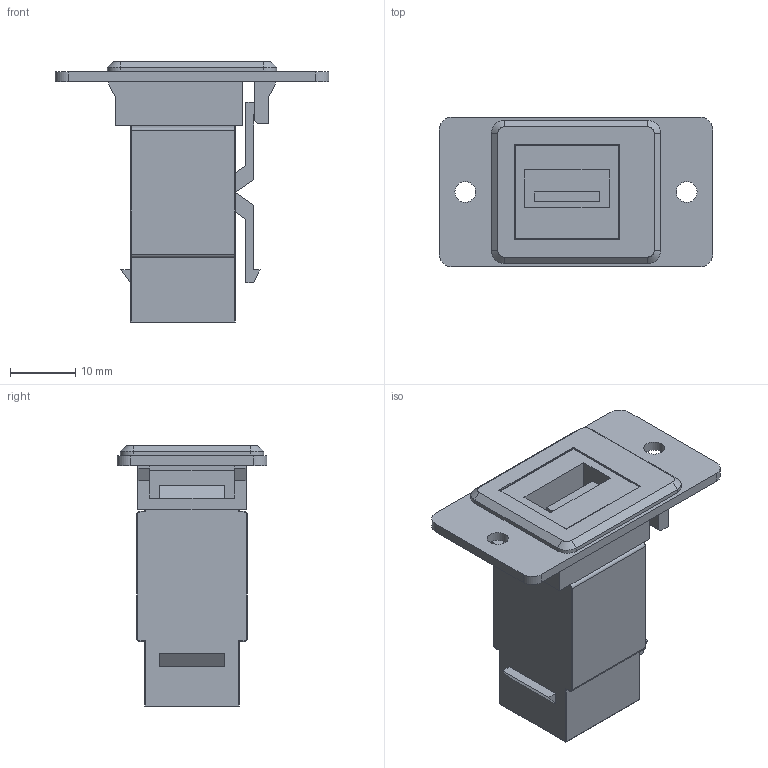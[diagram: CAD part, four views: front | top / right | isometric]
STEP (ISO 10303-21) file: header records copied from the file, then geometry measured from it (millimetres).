
FILE_DESCRIPTION(('FreeCAD Model'),'2;1');
FILE_NAME('Open CASCADE Shape Model','2026-04-24T13:32:11',(''),(''), 'Open CASCADE STEP processor 7.8','FreeCAD','Unknown');
FILE_SCHEMA(('AUTOMOTIVE_DESIGN { 1 0 10303 214 1 1 1 1 }'));
Length unit declared in the file: millimetre
Products named in the file (5): PMBST_USB2BA_BK; SIM-USBAB-XX-SX; PMBZL_SL; SIM-BZALPL-SL; TB-037_3013BUS12xx_SD
Assembly tree (4 placements, depth 3):
  PMBST_USB2BA_BK
    SIM-USBAB-XX-SX
    PMBZL_SL
      SIM-BZALPL-SL
      TB-037_3013BUS12xx_SD
Bounding box: 42 x 23 x 40.12 mm (x, y, z)
Volume: 11320.1 mm3; surface area: 7918.2 mm2
Topology: 3 solids, 3 shells, 202 faces, 521 edges, 322 vertices
Faces by surface type: plane 77, bspline 67, cylinder 42, sphere 8, torus 8
Full cylindrical faces by diameter (mm): 3.2 x2
Entity records: 6910 total; most frequent: CARTESIAN_POINT 2459, ORIENTED_EDGE 1026, DIRECTION 681, EDGE_CURVE 513, VERTEX_POINT 322, LINE 233, VECTOR 233, AXIS2_PLACEMENT_3D 224
